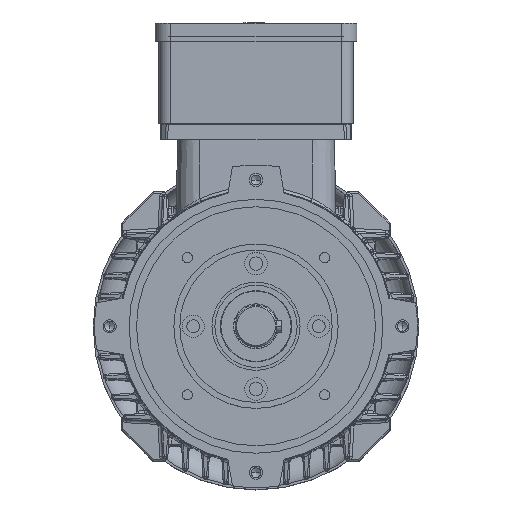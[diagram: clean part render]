
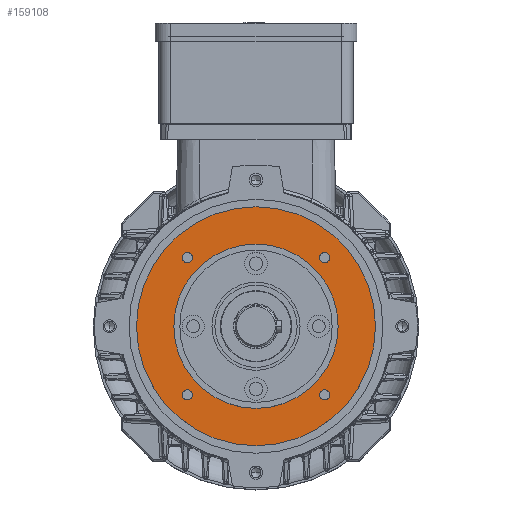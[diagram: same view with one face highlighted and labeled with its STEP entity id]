
A CAD part, top view. The second image highlights one B-rep face of the part: STEP entity #159108.
In plain terms, the highlighted planar face has unit normal (0, 0, 1).
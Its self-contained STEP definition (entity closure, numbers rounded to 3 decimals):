
#1357 = CARTESIAN_POINT ( 'NONE',  ( -55., 0., 165. ) ) ;
#4945 = CARTESIAN_POINT ( 'NONE',  ( 0., 0., 165. ) ) ;
#7575 = CARTESIAN_POINT ( 'NONE',  ( 42.562, -45.962, 165. ) ) ;
#7892 = CIRCLE ( 'NONE', #115226, 55. ) ;
#8914 = DIRECTION ( 'NONE',  ( 0., 0., 1. ) ) ;
#9526 = EDGE_CURVE ( 'NONE', #11612, #19679, #114748, .T. ) ;
#9606 = CIRCLE ( 'NONE', #74104, 80. ) ;
#10104 = PLANE ( 'NONE',  #156540 ) ;
#10866 = ORIENTED_EDGE ( 'NONE', *, *, #40009, .F. ) ;
#11612 = VERTEX_POINT ( 'NONE', #96837 ) ;
#12678 = DIRECTION ( 'NONE',  ( 0., 0., 1. ) ) ;
#14608 = DIRECTION ( 'NONE',  ( 0., 0., 1. ) ) ;
#14753 = DIRECTION ( 'NONE',  ( 0., 0., 1. ) ) ;
#15044 = EDGE_CURVE ( 'NONE', #26598, #94979, #119840, .T. ) ;
#16539 = CIRCLE ( 'NONE', #118717, 80. ) ;
#16815 = EDGE_LOOP ( 'NONE', ( #100810, #93349 ) ) ;
#17424 = CARTESIAN_POINT ( 'NONE',  ( 0., 0., 165. ) ) ;
#19085 = CARTESIAN_POINT ( 'NONE',  ( 0., 0., 165. ) ) ;
#19358 = ORIENTED_EDGE ( 'NONE', *, *, #15044, .F. ) ;
#19679 = VERTEX_POINT ( 'NONE', #7575 ) ;
#21671 = ORIENTED_EDGE ( 'NONE', *, *, #42626, .F. ) ;
#22740 = CARTESIAN_POINT ( 'NONE',  ( 0., 55., 165. ) ) ;
#22906 = CARTESIAN_POINT ( 'NONE',  ( -49.362, -45.962, 165. ) ) ;
#26598 = VERTEX_POINT ( 'NONE', #110299 ) ;
#27205 = DIRECTION ( 'NONE',  ( 1., 0., 0. ) ) ;
#27341 = DIRECTION ( 'NONE',  ( 1., 0., 0. ) ) ;
#30022 = DIRECTION ( 'NONE',  ( 1., 0., 0. ) ) ;
#30302 = ORIENTED_EDGE ( 'NONE', *, *, #39850, .T. ) ;
#30458 = EDGE_CURVE ( 'NONE', #19679, #11612, #138059, .T. ) ;
#30581 = DIRECTION ( 'NONE',  ( 1., 0., 0. ) ) ;
#31000 = VERTEX_POINT ( 'NONE', #22906 ) ;
#31925 = CARTESIAN_POINT ( 'NONE',  ( -80., 0., 165. ) ) ;
#31974 = EDGE_CURVE ( 'NONE', #78906, #117254, #7892, .T. ) ;
#32808 = DIRECTION ( 'NONE',  ( 1., 0., 0. ) ) ;
#35351 = DIRECTION ( 'NONE',  ( -1., 0., 0. ) ) ;
#36246 = CARTESIAN_POINT ( 'NONE',  ( 45.962, -45.962, 165. ) ) ;
#39850 = EDGE_CURVE ( 'NONE', #102760, #150035, #9606, .T. ) ;
#40009 = EDGE_CURVE ( 'NONE', #117254, #78906, #56643, .T. ) ;
#42596 = CARTESIAN_POINT ( 'NONE',  ( 80., 0., 165. ) ) ;
#42626 = EDGE_CURVE ( 'NONE', #94979, #26598, #137031, .T. ) ;
#42658 = ORIENTED_EDGE ( 'NONE', *, *, #30458, .F. ) ;
#42696 = DIRECTION ( 'NONE',  ( 0., 0., 1. ) ) ;
#43487 = VERTEX_POINT ( 'NONE', #58940 ) ;
#44233 = AXIS2_PLACEMENT_3D ( 'NONE', #96724, #83124, #32808 ) ;
#44285 = EDGE_CURVE ( 'NONE', #130494, #159032, #124387, .T. ) ;
#45415 = FACE_OUTER_BOUND ( 'NONE', #158537, .T. ) ;
#45640 = DIRECTION ( 'NONE',  ( 1., 0., 0. ) ) ;
#55104 = AXIS2_PLACEMENT_3D ( 'NONE', #36246, #12678, #100193 ) ;
#56643 = CIRCLE ( 'NONE', #84576, 55. ) ;
#58940 = CARTESIAN_POINT ( 'NONE',  ( -42.562, -45.962, 165. ) ) ;
#59075 = FACE_BOUND ( 'NONE', #127620, .T. ) ;
#63993 = AXIS2_PLACEMENT_3D ( 'NONE', #114272, #14753, #27341 ) ;
#68401 = EDGE_CURVE ( 'NONE', #31000, #43487, #69833, .T. ) ;
#69833 = CIRCLE ( 'NONE', #75781, 3.4 ) ;
#70689 = AXIS2_PLACEMENT_3D ( 'NONE', #160393, #8914, #45640 ) ;
#73086 = EDGE_LOOP ( 'NONE', ( #123689, #42658 ) ) ;
#74104 = AXIS2_PLACEMENT_3D ( 'NONE', #19085, #95043, #30581 ) ;
#75781 = AXIS2_PLACEMENT_3D ( 'NONE', #77181, #114854, #100698 ) ;
#77181 = CARTESIAN_POINT ( 'NONE',  ( -45.962, -45.962, 165. ) ) ;
#78906 = VERTEX_POINT ( 'NONE', #1357 ) ;
#82757 = ORIENTED_EDGE ( 'NONE', *, *, #31974, .F. ) ;
#83124 = DIRECTION ( 'NONE',  ( 0., 0., 1. ) ) ;
#84576 = AXIS2_PLACEMENT_3D ( 'NONE', #130102, #143734, #142632 ) ;
#85357 = EDGE_CURVE ( 'NONE', #159032, #130494, #153945, .T. ) ;
#86218 = EDGE_CURVE ( 'NONE', #150035, #102760, #16539, .T. ) ;
#89447 = CARTESIAN_POINT ( 'NONE',  ( 55., 0., 165. ) ) ;
#92482 = DIRECTION ( 'NONE',  ( 1., 0., 0. ) ) ;
#93170 = AXIS2_PLACEMENT_3D ( 'NONE', #113600, #137683, #27205 ) ;
#93349 = ORIENTED_EDGE ( 'NONE', *, *, #68401, .F. ) ;
#94979 = VERTEX_POINT ( 'NONE', #99622 ) ;
#95043 = DIRECTION ( 'NONE',  ( 0., 0., 1. ) ) ;
#96338 = ORIENTED_EDGE ( 'NONE', *, *, #86218, .T. ) ;
#96724 = CARTESIAN_POINT ( 'NONE',  ( -45.962, 45.962, 165. ) ) ;
#96837 = CARTESIAN_POINT ( 'NONE',  ( 49.362, -45.962, 165. ) ) ;
#98286 = FACE_BOUND ( 'NONE', #73086, .T. ) ;
#99000 = ORIENTED_EDGE ( 'NONE', *, *, #44285, .F. ) ;
#99191 = EDGE_LOOP ( 'NONE', ( #21671, #19358 ) ) ;
#99622 = CARTESIAN_POINT ( 'NONE',  ( 49.362, 45.962, 165. ) ) ;
#100193 = DIRECTION ( 'NONE',  ( 1., 0., 0. ) ) ;
#100698 = DIRECTION ( 'NONE',  ( 1., 0., 0. ) ) ;
#100810 = ORIENTED_EDGE ( 'NONE', *, *, #133887, .F. ) ;
#102760 = VERTEX_POINT ( 'NONE', #31925 ) ;
#104265 = DIRECTION ( 'NONE',  ( 1., 0., 0. ) ) ;
#104350 = DIRECTION ( 'NONE',  ( 0., 0., 1. ) ) ;
#110178 = ORIENTED_EDGE ( 'NONE', *, *, #85357, .F. ) ;
#110196 = DIRECTION ( 'NONE',  ( 0., 0., -1. ) ) ;
#110299 = CARTESIAN_POINT ( 'NONE',  ( 42.562, 45.962, 165. ) ) ;
#113600 = CARTESIAN_POINT ( 'NONE',  ( -45.962, -45.962, 165. ) ) ;
#114272 = CARTESIAN_POINT ( 'NONE',  ( 45.962, 45.962, 165. ) ) ;
#114748 = CIRCLE ( 'NONE', #70689, 3.4 ) ;
#114854 = DIRECTION ( 'NONE',  ( 0., 0., 1. ) ) ;
#115226 = AXIS2_PLACEMENT_3D ( 'NONE', #4945, #42696, #92482 ) ;
#116900 = CARTESIAN_POINT ( 'NONE',  ( -42.562, 45.962, 165. ) ) ;
#117254 = VERTEX_POINT ( 'NONE', #89447 ) ;
#118717 = AXIS2_PLACEMENT_3D ( 'NONE', #17424, #104350, #30022 ) ;
#119567 = DIRECTION ( 'NONE',  ( 0., 0., 1. ) ) ;
#119840 = CIRCLE ( 'NONE', #139624, 3.4 ) ;
#123689 = ORIENTED_EDGE ( 'NONE', *, *, #9526, .F. ) ;
#124387 = CIRCLE ( 'NONE', #156420, 3.4 ) ;
#125669 = CARTESIAN_POINT ( 'NONE',  ( -49.362, 45.962, 165. ) ) ;
#127296 = CARTESIAN_POINT ( 'NONE',  ( 45.962, 45.962, 165. ) ) ;
#127620 = EDGE_LOOP ( 'NONE', ( #110178, #99000 ) ) ;
#130102 = CARTESIAN_POINT ( 'NONE',  ( 0., 0., 165. ) ) ;
#130494 = VERTEX_POINT ( 'NONE', #125669 ) ;
#130595 = DIRECTION ( 'NONE',  ( 1., 0., 0. ) ) ;
#131658 = CARTESIAN_POINT ( 'NONE',  ( -45.962, 45.962, 165. ) ) ;
#133887 = EDGE_CURVE ( 'NONE', #43487, #31000, #147390, .T. ) ;
#137031 = CIRCLE ( 'NONE', #63993, 3.4 ) ;
#137683 = DIRECTION ( 'NONE',  ( 0., 0., 1. ) ) ;
#138059 = CIRCLE ( 'NONE', #55104, 3.4 ) ;
#139624 = AXIS2_PLACEMENT_3D ( 'NONE', #127296, #14608, #104265 ) ;
#142632 = DIRECTION ( 'NONE',  ( 1., 0., 0. ) ) ;
#143734 = DIRECTION ( 'NONE',  ( 0., 0., 1. ) ) ;
#147390 = CIRCLE ( 'NONE', #93170, 3.4 ) ;
#149110 = FACE_BOUND ( 'NONE', #161715, .T. ) ;
#150035 = VERTEX_POINT ( 'NONE', #42596 ) ;
#153945 = CIRCLE ( 'NONE', #44233, 3.4 ) ;
#156420 = AXIS2_PLACEMENT_3D ( 'NONE', #131658, #119567, #130595 ) ;
#156540 = AXIS2_PLACEMENT_3D ( 'NONE', #22740, #110196, #35351 ) ;
#158537 = EDGE_LOOP ( 'NONE', ( #96338, #30302 ) ) ;
#158830 = FACE_BOUND ( 'NONE', #99191, .T. ) ;
#159032 = VERTEX_POINT ( 'NONE', #116900 ) ;
#159108 = ADVANCED_FACE ( 'NONE', ( #59075, #160839, #98286, #158830, #149110, #45415 ), #10104, .F. ) ;
#160393 = CARTESIAN_POINT ( 'NONE',  ( 45.962, -45.962, 165. ) ) ;
#160839 = FACE_BOUND ( 'NONE', #16815, .T. ) ;
#161715 = EDGE_LOOP ( 'NONE', ( #10866, #82757 ) ) ;
